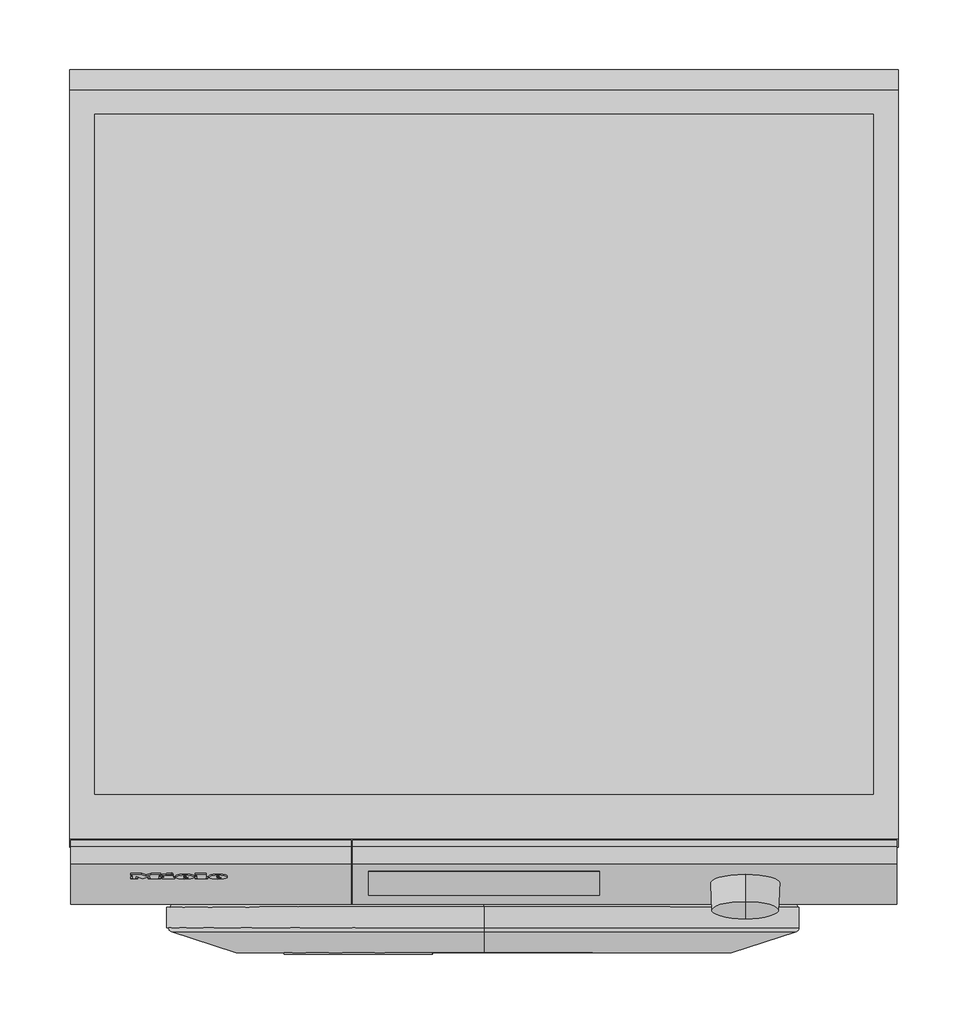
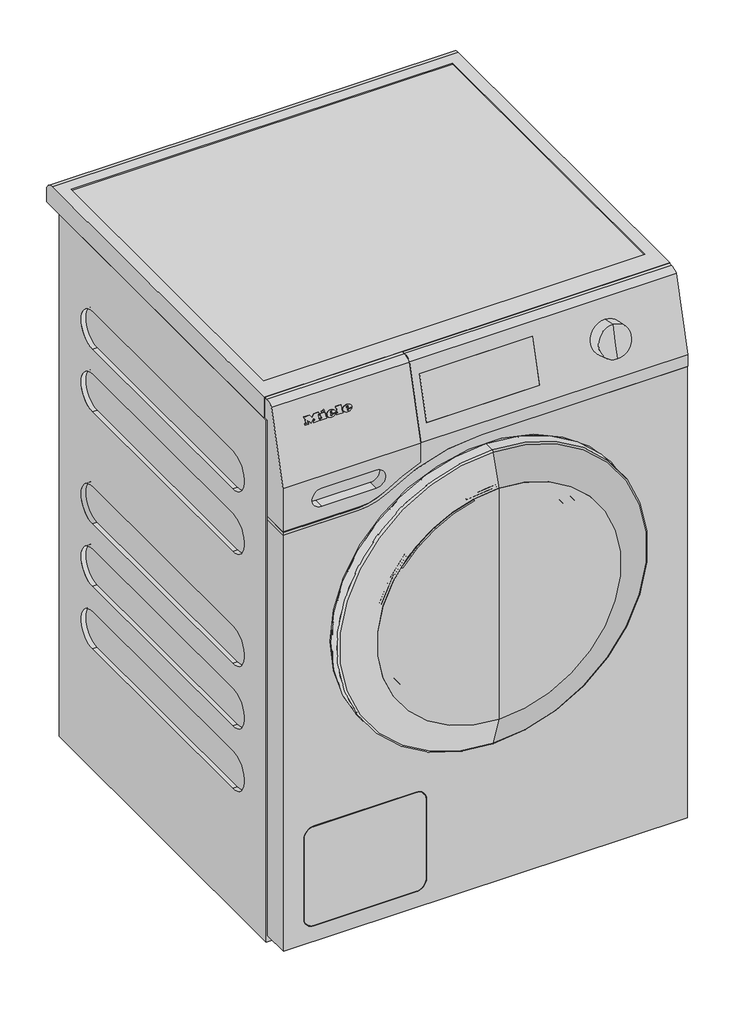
# Not in any storey: 1 proxy.
"""IFC4 building model written with IfcOpenShell, lengths in millimetres."""

from ifc_helpers import new_model, si_unit, origin, place, context, project, spatial, transform, mapped, element, save
from components import specialty_equipment_27e1f234, specialty_equipment_e664911a

model = new_model("IFC4")

# Units and contexts
model_context = context("Model", 3, world=origin())
ifc_project = project(units=[si_unit("LENGTHUNIT", "METRE", prefix="MILLI")], contexts=[model_context])

# Site, building
site = spatial("IfcSite", under=ifc_project)
building = spatial("IfcBuilding", under=site)

# Proxy
placement = place(None, origin())
specialty_equipment_shape = specialty_equipment_27e1f234(model_context)
specialty_equipment_2_shape = specialty_equipment_e664911a(model_context)
element("IfcBuildingElementProxy", 1, Name="12397100_D_WEB395WPS_LW : 11EB3953_D_12397100_WEB395WPS_LW", ObjectType="12397100_D_WEB395WPS_LW : 11EB3953_D_12397100_WEB395WPS_LW", at=placement, inside=building, context=model_context, shape_type="MappedRepresentation", body=[
    mapped(specialty_equipment_shape, transform((0.0, 0.0, 0.0), x_axis=(1.0, 0.0, 0.0), y_axis=(0.0, 1.0, 0.0), z_axis=(0.0, 0.0, 1.0))),
    mapped(specialty_equipment_2_shape, transform((0.0, 0.0, 0.0), x_axis=(1.0, 0.0, 0.0), y_axis=(0.0, 1.0, 0.0), z_axis=(0.0, 0.0, 1.0))),
])

save(model, "model.ifc")
